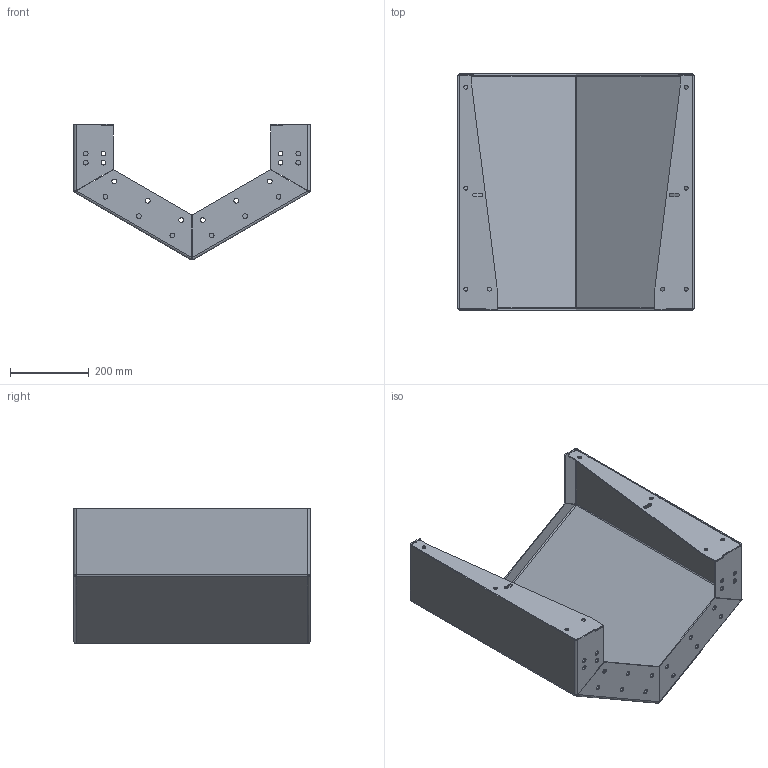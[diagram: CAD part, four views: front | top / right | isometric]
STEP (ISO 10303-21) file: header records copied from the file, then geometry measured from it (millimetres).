
FILE_DESCRIPTION (( 'STEP AP214' ), '1' );
FILE_NAME ('KI-0001-U01.STEP', '2026-02-23T08:03:01', ( '' ), ( '' ), 'SwSTEP 2.0', 'SolidWorks 2025', '' );
FILE_SCHEMA (( 'AUTOMOTIVE_DESIGN' ));
Length unit declared in the file: millimetre
Products named in the file (3): SHEET^KI-0001-U01; KI-0001-U01; KI-0000-GS01
Assembly tree (3 placements, depth 2):
  KI-0001-U01
    SHEET^KI-0001-U01
    KI-0000-GS01  x2
Bounding box: 600 x 600 x 345.44 mm (x, y, z)
Volume: 2425176.3 mm3; surface area: 1640291 mm2
Topology: 3 solids, 3 shells, 228 faces, 578 edges, 356 vertices
Faces by surface type: cylinder 112, plane 104, bspline 12
Entity records: 6356 total; most frequent: CARTESIAN_POINT 1814, DIRECTION 936, ORIENTED_EDGE 904, EDGE_CURVE 452, AXIS2_PLACEMENT_3D 330, LINE 276, VECTOR 276, VERTEX_POINT 272
